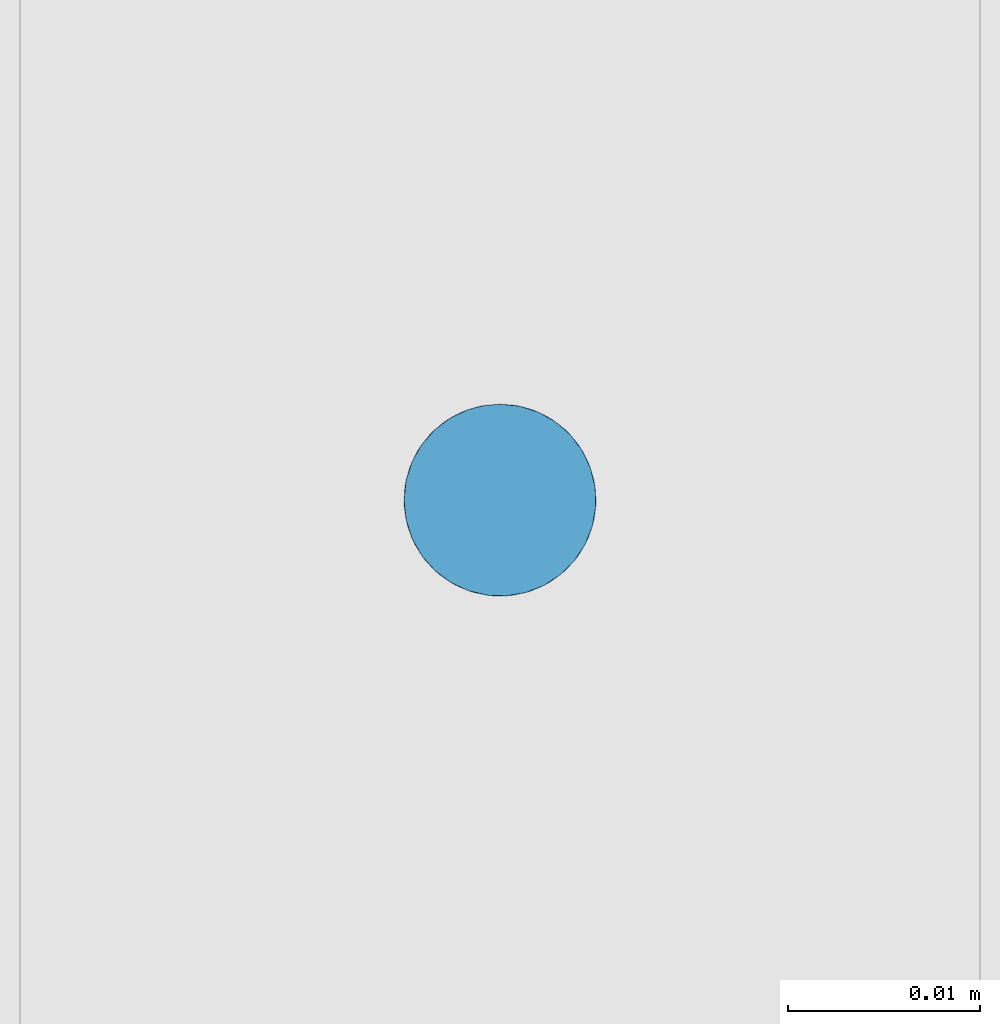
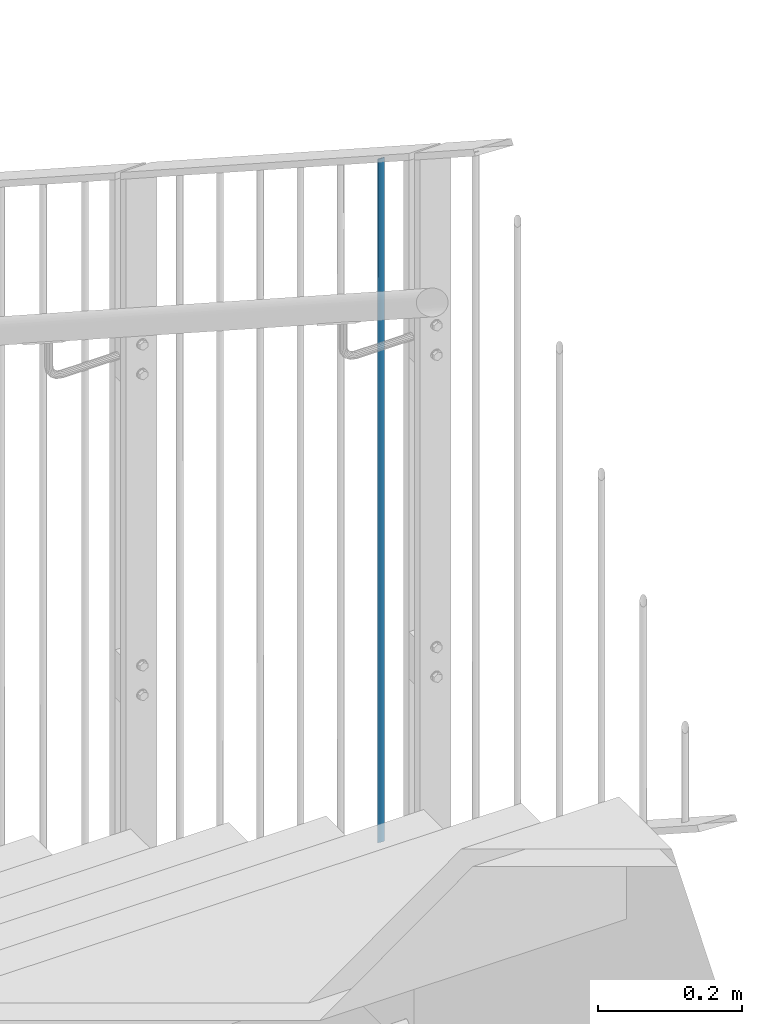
# One storey, part 34 of 296: 1 column.
"""IFC2X3 building model written with IfcOpenShell, lengths in millimetres."""

import ifcopenshell
import ifcopenshell.guid

model = None  # the IFC model being written
_history = None  # IfcOwnerHistory: only IFC2X3 demands one
_inside = {}  # id of a spatial element -> (the spatial element, [elements in it])
_under = {}  # id of a project, library or spatial element -> (it, [spatial elements below it])
_declared = {}  # id of a project -> (the project, [libraries it declares])
_typed = {}  # id of a type object -> (the type object, [elements of that type])
_made_of = {}  # id of a material, layer set ... -> (it, [elements and type objects made of it])


def new_model(schema):
    """Start an empty IFC model of exactly this schema.

    Asked for "IFC4X3", IfcOpenShell would pick the latest addendum, in which some entities
    have other attributes; the version numbers below select the first issue.
    IFC2X3 requires an IfcOwnerHistory on every rooted entity: one is made here for all.
    """
    global model, _history
    if schema == "IFC4X3":
        model = ifcopenshell.file(schema_version=(4, 3, 0, 0))
    else:
        model = ifcopenshell.file(schema=schema)
    _inside.clear()
    _under.clear()
    _declared.clear()
    _typed.clear()
    _made_of.clear()
    _history = None
    if model.schema == "IFC2X3":
        org = make("IfcOrganization", Name="unknown")
        user = make(
            "IfcPersonAndOrganization",
            ThePerson=make("IfcPerson", FamilyName="unknown"),
            TheOrganization=org,
        )
        app = make(
            "IfcApplication",
            ApplicationDeveloper=org,
            Version="unknown",
            ApplicationFullName="unknown",
            ApplicationIdentifier="unknown",
        )
        _history = make(
            "IfcOwnerHistory",
            OwningUser=user,
            OwningApplication=app,
            ChangeAction="ADDED",
            CreationDate=0,
        )
    return model


def make(cls, **values):
    """One entity of the class cls with the attributes given. An attribute that is None is left unset."""
    return model.create_entity(
        cls, **{name: value for name, value in values.items() if value is not None}
    )


def entity(cls, *values):
    """Any entity or typed value of the class cls, its attributes in the order of the schema. None: left unset."""
    e = model.create_entity(cls)
    for i, value in enumerate(values):
        if value is not None:
            e[i] = value
    return e


def rooted(cls, **values):
    """An entity with a GlobalId (a new one), such as an element, a storey or a relation."""
    return make(cls, GlobalId=ifcopenshell.guid.new(), OwnerHistory=_history, **values)


def si_unit(unit_type, name, prefix=None):
    """IfcSIUnit, for example si_unit("LENGTHUNIT", "METRE", prefix="MILLI")."""
    return make("IfcSIUnit", UnitType=unit_type, Prefix=prefix, Name=name)


def converted_unit(unit_type, name, factor, base, dimensions=None, offset=None):
    """IfcConversionBasedUnit, such as the inch: factor (a typed value) times the base unit."""
    return make(
        "IfcConversionBasedUnit"
        if offset is None
        else "IfcConversionBasedUnitWithOffset",
        ConversionOffset=offset,
        Dimensions=None
        if dimensions is None
        else entity("IfcDimensionalExponents", *dimensions),
        UnitType=unit_type,
        Name=name,
        ConversionFactor=make(
            "IfcMeasureWithUnit", ValueComponent=factor, UnitComponent=base
        ),
    )


def assignment(units):
    """IfcUnitAssignment: the units of a project."""
    return None if units is None else make("IfcUnitAssignment", Units=units)


def point(xyz):
    """IfcCartesianPoint."""
    return None if xyz is None else make("IfcCartesianPoint", Coordinates=xyz)


def direction(xyz):
    """IfcDirection."""
    return None if xyz is None else make("IfcDirection", DirectionRatios=xyz)


def frame(location, z_axis=None, x_axis=None):
    """IfcAxis2Placement3D, a coordinate frame: its origin and axes. An axis left out is left unset."""
    return make(
        "IfcAxis2Placement3D",
        Location=point(location),
        Axis=direction(z_axis),
        RefDirection=direction(x_axis),
    )


def frame_2d(location, x_axis=None):
    """IfcAxis2Placement2D, a coordinate frame in the plane: its origin and x axis."""
    return make(
        "IfcAxis2Placement2D", Location=point(location), RefDirection=direction(x_axis)
    )


def origin():
    """The frame at (0, 0, 0) with its axes left unset."""
    return frame((0.0, 0.0, 0.0))


def origin_with_axes():
    """The frame at (0, 0, 0) with the z axis (0, 0, 1) and the x axis (1, 0, 0) written out."""
    return frame((0.0, 0.0, 0.0), z_axis=(0.0, 0.0, 1.0), x_axis=(1.0, 0.0, 0.0))


def origin_2d():
    """The frame at (0, 0) in the plane with its x axis left unset."""
    return frame_2d((0.0, 0.0))


def place(relative_to, where):
    """IfcLocalPlacement: puts the frame where relative to a parent placement (None: the world)."""
    return make(
        "IfcLocalPlacement", PlacementRelTo=relative_to, RelativePlacement=where
    )


def context(
    kind, dimensions, precision=None, world=None, true_north=None, identifier=None
):
    """IfcGeometricRepresentationContext, for example the 3D "Model" context."""
    return make(
        "IfcGeometricRepresentationContext",
        ContextIdentifier=identifier,
        ContextType=kind,
        CoordinateSpaceDimension=dimensions,
        Precision=precision,
        WorldCoordinateSystem=world,
        TrueNorth=true_north,
    )


def project(units=None, contexts=None):
    """IfcProject with its units and contexts."""
    return rooted(
        "IfcProject",
        Name="project",
        RepresentationContexts=contexts,
        UnitsInContext=assignment(units),
    )


def spatial(cls, under=None, at=None, **own):
    """A site, building, storey or space (cls), placed at a placement, below another one or the project."""
    s = rooted(cls, ObjectPlacement=at, **own)
    if under is not None:
        _under.setdefault(under.id(), (under, []))[1].append(s)
    return s


def profile(cls, at=None, kind="AREA", **sizes):
    """A parametric profile (cls). Its sizes go by their IFC names, for example OverallWidth=200.0."""
    return make(cls, ProfileType=kind, Position=at, **sizes)


def circle(**sizes):
    """IfcCircleProfileDef."""
    return profile("IfcCircleProfileDef", **sizes)


def extrude(swept, where, along, depth):
    """IfcExtrudedAreaSolid: the profile swept, set in the frame where, extruded along a direction by depth."""
    return make(
        "IfcExtrudedAreaSolid",
        SweptArea=swept,
        Position=where,
        ExtrudedDirection=direction(along),
        Depth=depth,
    )


def clip(a, b, op="DIFFERENCE"):
    """IfcBooleanClippingResult: the solid a cut by the half space b."""
    return make(
        "IfcBooleanClippingResult", Operator=op, FirstOperand=a, SecondOperand=b
    )


def halfspace(plane, agree):
    """IfcHalfSpaceSolid: all space on one side of the plane z = 0 of the frame plane."""
    return make(
        "IfcHalfSpaceSolid",
        BaseSurface=make("IfcPlane", Position=plane),
        AgreementFlag=agree,
    )


def shape(context_of_items, identifier, shape_type, items):
    """IfcShapeRepresentation: the items that make up one representation, for example the "Body"."""
    return make(
        "IfcShapeRepresentation",
        ContextOfItems=context_of_items,
        RepresentationIdentifier=identifier,
        RepresentationType=shape_type,
        Items=items,
    )


def material(Name=None, Category=None):
    """IfcMaterial."""
    return make("IfcMaterial", Name=Name, Category=Category)


def made_of(thing, what):
    """Note that an element or type object is made of a material, layer set ...; save() writes the relation."""
    if what is not None:
        _made_of.setdefault(what.id(), (what, []))[1].append(thing)
    return thing


def element(
    cls,
    number,
    at=None,
    inside=None,
    cuts=None,
    type_object=None,
    material=None,
    context=None,
    identifier="Body",
    shape_type=None,
    held_by="IfcProductDefinitionShape",
    body=None,
    shapes=None,
    **own,
):
    """One element of the class cls, such as IfcWall. Its Tag is "e" and its number.

    at: its placement. inside: the storey or other place that contains it. cuts: it is an
    opening in that element (IfcRelVoidsElement). A single representation is given by context,
    identifier, shape_type and body (its items); several are given by shapes. held_by: the class
    of the entity that holds the representations. save() writes the other relations.
    """
    e = rooted(cls, Tag="e%d" % number, ObjectPlacement=at, **own)
    if body is not None:
        shapes = [shape(context, identifier, shape_type, body)]
    if shapes is not None:
        e.Representation = make(held_by, Representations=shapes)
    if inside is not None:
        _inside.setdefault(inside.id(), (inside, []))[1].append(e)
    if cuts is not None:
        rooted(
            "IfcRelVoidsElement", RelatingBuildingElement=cuts, RelatedOpeningElement=e
        )
    if type_object is not None:
        _typed.setdefault(type_object.id(), (type_object, []))[1].append(e)
    return made_of(e, material)


def aggregate(whole, parts):
    """IfcRelAggregates: a whole, such as a stair, and the parts it consists of."""
    return rooted("IfcRelAggregates", RelatingObject=whole, RelatedObjects=parts)


def save(model, path):
    """Write the relations noted so far, then the file.

    IfcRelAggregates (storeys below a building ...), IfcRelContainedInSpatialStructure (elements
    in a storey), IfcRelDefinesByType, IfcRelAssociatesMaterial and IfcRelDeclares: one each for
    every whole, place, type object, material and project.
    """
    for whole, parts in _under.values():
        aggregate(whole, parts)
    for where, things in _inside.values():
        rooted(
            "IfcRelContainedInSpatialStructure",
            RelatedElements=things,
            RelatingStructure=where,
        )
    for kind, things in _typed.values():
        rooted("IfcRelDefinesByType", RelatedObjects=things, RelatingType=kind)
    for what, things in _made_of.values():
        rooted("IfcRelAssociatesMaterial", RelatedObjects=things, RelatingMaterial=what)
    for by, libraries in _declared.values():
        rooted("IfcRelDeclares", RelatingContext=by, RelatedDefinitions=libraries)
    model.write(path)


model = new_model("IFC2X3")

# Units and contexts
model_context = context("Model", 3, precision=1e-09, world=origin_with_axes())
ifc_project = project(units=[si_unit("LENGTHUNIT", "METRE", prefix="MILLI"), si_unit("AREAUNIT", "SQUARE_METRE"), si_unit("VOLUMEUNIT", "CUBIC_METRE"), converted_unit("PLANEANGLEUNIT", "DEGREE", entity("IfcPlaneAngleMeasure", 0.01745329), si_unit("PLANEANGLEUNIT", "RADIAN"), dimensions=[0, 0, 0, 0, 0, 0, 0])], contexts=[model_context])

# Site, building, storey
site_placement = place(None, origin_with_axes())
site = spatial("IfcSite", under=ifc_project, at=site_placement, Name="TZD-S?d | Treppenhausgel?nder", CompositionType="ELEMENT")
building_placement = place(site_placement, origin_with_axes())
building = spatial("IfcBuilding", under=site, at=building_placement, Name="Struktur 1", CompositionType="ELEMENT")
storey_placement = place(building_placement, origin_with_axes())
storey = spatial("IfcBuildingStorey", under=building, at=storey_placement, Name="Default Storey", CompositionType="ELEMENT", Elevation=0.0)

# Column
ifc_material = material(Name="S235JR")
column_placement = place(None, frame((5894.999, -2206.0714286, 3967.990451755), z_axis=(0.0, 0.0, -1.0), x_axis=(0.0, 1.0, 0.0)))
element("IfcColumn", 1, at=column_placement, inside=storey, material=ifc_material, Name="-", ObjectType="-", context=model_context, shape_type="Clipping", body=[
    clip(clip(extrude(circle(Radius=5.0, at=origin_2d()), origin(), (0.0, 0.0, -1.0), 1184.932529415), halfspace(frame((3898.657171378, -5894.999, 1350.18160462), z_axis=(-0.542959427, 0.0, 0.83975893), x_axis=(0.0, 1.0, 0.0)), True)), halfspace(frame((3371.490513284, -5894.999, 2165.514917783), z_axis=(0.542959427, 0.0, -0.83975893), x_axis=(0.0, -1.0, 0.0)), True)),
])

save(model, "model.ifc")
